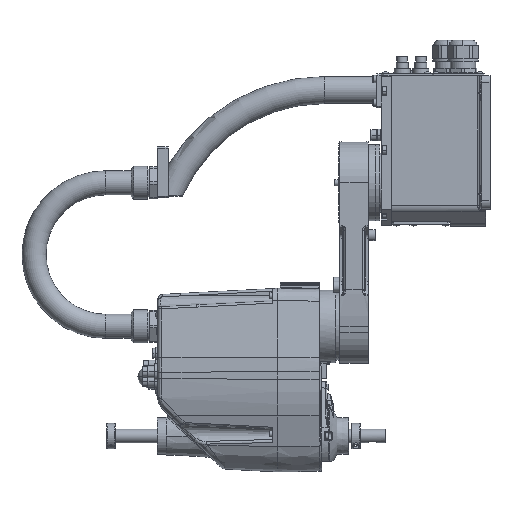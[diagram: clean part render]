
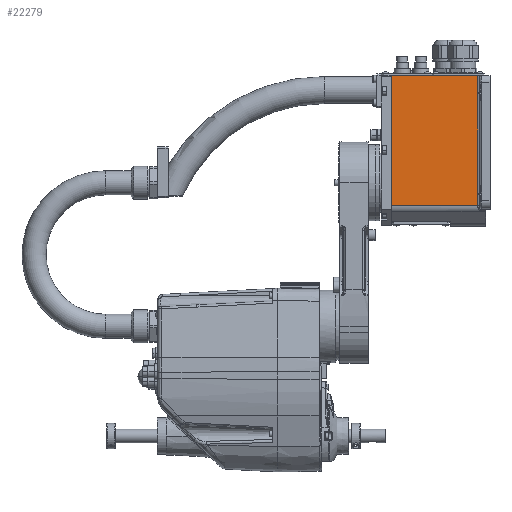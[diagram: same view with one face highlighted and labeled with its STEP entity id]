
A CAD part, left-side view. The second image highlights one B-rep face of the part: STEP entity #22279.
In plain terms, the highlighted planar face has unit normal (-1, 0, 0) as drawn and (0, 0, 1) by its records, which use the part's own axes.
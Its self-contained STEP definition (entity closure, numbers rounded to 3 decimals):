
#2241=DIRECTION('',(0.,1.,0.));
#2242=VECTOR('',#2241,102.694);
#2243=CARTESIAN_POINT('',(127.,-141.694,50.5));
#2244=LINE('',#2243,#2242);
#2302=DIRECTION('',(1.,0.,0.));
#2303=VECTOR('',#2302,153.858);
#2304=CARTESIAN_POINT('',(-26.858,-141.694,
50.5));
#2305=LINE('',#2304,#2303);
#2306=DIRECTION('',(0.,-1.,0.));
#2307=VECTOR('',#2306,102.694);
#2308=CARTESIAN_POINT('',(-26.858,-39.,50.5));
#2309=LINE('',#2308,#2307);
#2310=DIRECTION('',(1.,0.,0.));
#2311=VECTOR('',#2310,153.858);
#2312=CARTESIAN_POINT('',(-26.858,-39.,50.5));
#2313=LINE('',#2312,#2311);
#16824=CARTESIAN_POINT('',(-26.858,-39.,50.5));
#16825=CARTESIAN_POINT('',(127.,-39.,50.5));
#16826=VERTEX_POINT('',#16824);
#16827=VERTEX_POINT('',#16825);
#17053=CARTESIAN_POINT('',(-26.858,-141.694,
50.5));
#17054=CARTESIAN_POINT('',(127.,-141.694,50.5));
#17055=VERTEX_POINT('',#17053);
#17056=VERTEX_POINT('',#17054);
#22266=CARTESIAN_POINT('',(0.,-156.,50.5));
#22267=DIRECTION('',(0.,0.,1.));
#22268=DIRECTION('',(1.,0.,0.));
#22269=AXIS2_PLACEMENT_3D('',#22266,#22267,#22268);
#22270=PLANE('',#22269);
#22272=ORIENTED_EDGE('',*,*,#22271,.F.);
#22274=ORIENTED_EDGE('',*,*,#22273,.F.);
#22275=ORIENTED_EDGE('',*,*,#22247,.T.);
#22276=ORIENTED_EDGE('',*,*,#22112,.F.);
#22277=EDGE_LOOP('',(#22272,#22274,#22275,#22276));
#22278=FACE_OUTER_BOUND('',#22277,.F.);
#22279=ADVANCED_FACE('',(#22278),#22270,.T.);
#22112=EDGE_CURVE('',#17056,#16827,#2244,.T.);
#22247=EDGE_CURVE('',#16826,#16827,#2313,.T.);
#22271=EDGE_CURVE('',#17055,#17056,#2305,.T.);
#22273=EDGE_CURVE('',#16826,#17055,#2309,.T.);
